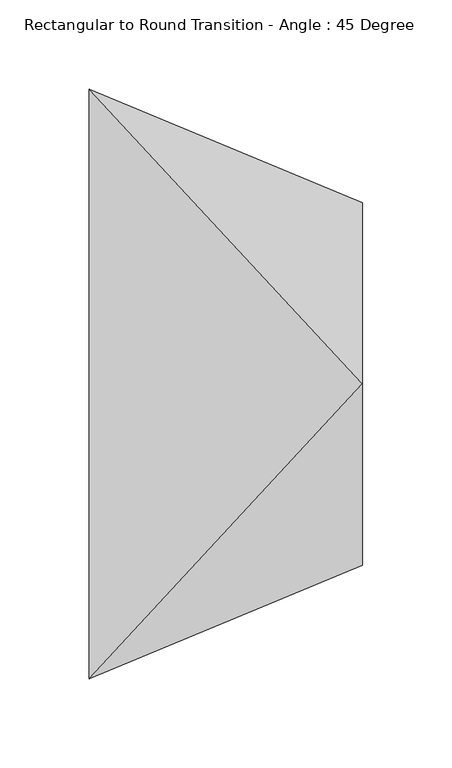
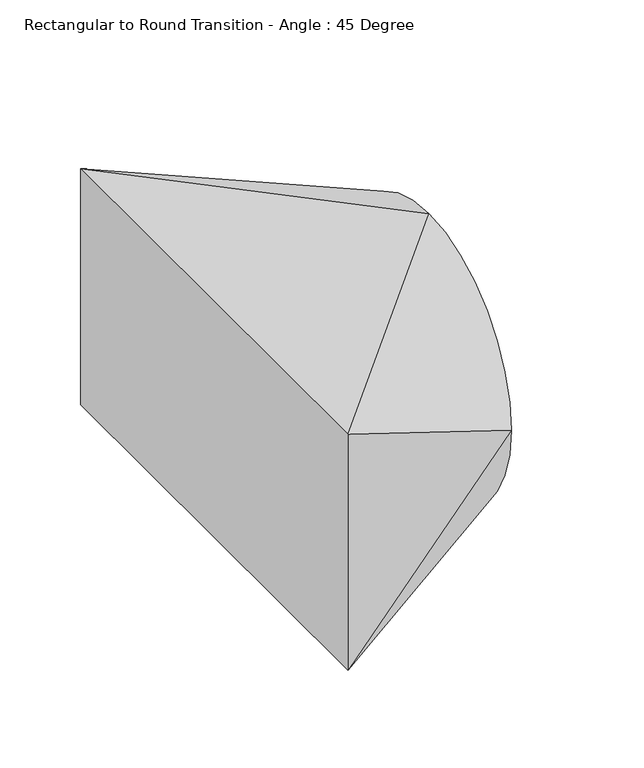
"""IFC4 building model written with IfcOpenShell, lengths in millimetres: duct fitting geometry, Rectangular to Round Transition - Angle : 45 Degree."""

from ifc_helpers import new_model, si_unit, frame, origin, place, context, project, spatial, circle_curve, source, transform, mapped, element, save
from ifc_brep_helpers import plane_surface, spline_surface, advanced_brep


def rectangular_to_round_transition_angle_45_degree_8ccbb142(model_context):
    return source(origin(), model_context, "Body", "AdvancedBrep", [
        advanced_brep(
        [(153.3025612, 0.0, 101.6), (153.3025612, -101.6, 0.0), (153.3025612, 0.0, -101.6), (153.3025612, 101.6, 0.0), (0.0, -165.1, 88.9), (0.0, 165.1, 88.9), (0.0, 165.1, -88.9), (0.0, -165.1, -88.9)],
        [
            (0, 1, circle_curve(frame((153.3025612, 0.0, 0.0), z_axis=(1.0, 0.0, 0.0), x_axis=(0.0, 1.0, 0.0)), 101.6)),
            (1, 2, circle_curve(frame((153.3025612, 0.0, 0.0), z_axis=(1.0, 0.0, 0.0), x_axis=(0.0, 1.0, 0.0)), 101.6)),
            (2, 3, circle_curve(frame((153.3025612, 0.0, 0.0), z_axis=(1.0, 0.0, 0.0), x_axis=(0.0, 1.0, 0.0)), 101.6)),
            (3, 0, circle_curve(frame((153.3025612, 0.0, 0.0), z_axis=(1.0, 0.0, 0.0), x_axis=(0.0, 1.0, 0.0)), 101.6)),
            (4, 5),
            (5, 6),
            (6, 7),
            (7, 4),
            (0, 4),
            (4, 1),
            (7, 1),
            (7, 2),
            (6, 2),
            (6, 3),
            (5, 3),
            (5, 0),
        ],
        [
            plane_surface(frame((153.3025612, 0.0, 0.0), z_axis=(1.0, 0.0, 0.0), x_axis=(0.0, 0.0, -1.0))),
            plane_surface(frame((0.0, 0.0, 0.0), z_axis=(-1.0, 0.0, 0.0), x_axis=(0.0, 0.0, -1.0))),
            spline_surface(2, 1, [[(0.0, -165.1, 88.9), (153.3025612, 0.0, 101.6)], [(0.0, -165.1, 88.9), (153.3025612, -101.6, 101.6)], [(0.0, -165.1, 88.9), (153.3025612, -101.6, 0.0)]], [3, 3], [2, 2], [0.0, 1.0], [0.0, 1.0], weights=[[1.0, 1.0], [0.7071067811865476, 0.7071067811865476], [1.0, 1.0]]),
            plane_surface(frame((0.0, -165.1, 0.0), z_axis=(0.38268343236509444, -0.9238795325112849, 0.0), x_axis=(0.0, 0.0, -1.0))),
            spline_surface(2, 1, [[(0.0, -165.1, -88.9), (153.3025612, -101.6, 0.0)], [(0.0, -165.1, -88.9), (153.3025612, -101.6, -101.6)], [(0.0, -165.1, -88.9), (153.3025612, 0.0, -101.6)]], [3, 3], [2, 2], [0.0, 1.0], [0.0, 1.0], weights=[[1.0, 1.0], [0.7071067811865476, 0.7071067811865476], [1.0, 1.0]]),
            plane_surface(frame((0.0, 0.0, -88.9), z_axis=(-0.08255989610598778, 0.0, -0.9965861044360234), x_axis=(0.0, 1.0, 0.0))),
            spline_surface(2, 1, [[(0.0, 165.1, -88.9), (153.3025612, 0.0, -101.6)], [(0.0, 165.1, -88.9), (153.3025612, 101.6, -101.6)], [(0.0, 165.1, -88.9), (153.3025612, 101.6, 0.0)]], [3, 3], [2, 2], [0.0, 1.0], [0.0, 1.0], weights=[[1.0, 1.0], [0.7071067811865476, 0.7071067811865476], [1.0, 1.0]]),
            plane_surface(frame((0.0, 165.1, 0.0), z_axis=(0.38268343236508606, 0.9238795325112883, 0.0), x_axis=(0.0, 0.0, 1.0))),
            spline_surface(2, 1, [[(0.0, 165.1, 88.9), (153.3025612, 101.6, 0.0)], [(0.0, 165.1, 88.9), (153.3025612, 101.6, 101.6)], [(0.0, 165.1, 88.9), (153.3025612, 0.0, 101.6)]], [3, 3], [2, 2], [0.0, 1.0], [0.0, 1.0], weights=[[1.0, 1.0], [0.7071067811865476, 0.7071067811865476], [1.0, 1.0]]),
            plane_surface(frame((0.0, 0.0, 88.9), z_axis=(-0.08255989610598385, 0.0, 0.9965861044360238), x_axis=(0.0, -1.0, 0.0))),
        ],
        [
            (0, [[1, 2, 3, 4]]),
            (1, [[5, 6, 7, 8]]),
            (2, [[-1, 9, 10]]),
            (3, [[-8, 11, -10]]),
            (4, [[-2, -11, 12]]),
            (5, [[-7, 13, -12]]),
            (6, [[-3, -13, 14]]),
            (7, [[-6, 15, -14]]),
            (8, [[-4, -15, 16]]),
            (9, [[-5, -9, -16]]),
        ],
    ),
    ])


if __name__ == "__main__":
    model = new_model("IFC4")
    model_context = context("Model", 3, world=origin())
    ifc_project = project(units=[si_unit("LENGTHUNIT", "METRE", prefix="MILLI")], contexts=[model_context])
    site = spatial("IfcSite", under=ifc_project)
    building = spatial("IfcBuilding", under=site)
    placement = place(None, origin())
    rectangular_to_round_transition_angle_45_degree_shape = rectangular_to_round_transition_angle_45_degree_8ccbb142(model_context)
    element("IfcDuctFitting", 1, ObjectType="Rectangular to Round Transition - Angle : 45 Degree", at=placement, inside=building, context=model_context, shape_type="MappedRepresentation", body=[
        mapped(rectangular_to_round_transition_angle_45_degree_shape, transform((0.0, 0.0, 0.0), x_axis=(1.0, 0.0, 0.0), y_axis=(0.0, 1.0, 0.0), z_axis=(0.0, 0.0, 1.0))),
    ])
    save(model, "model.ifc")
